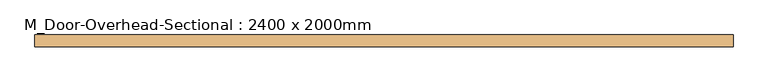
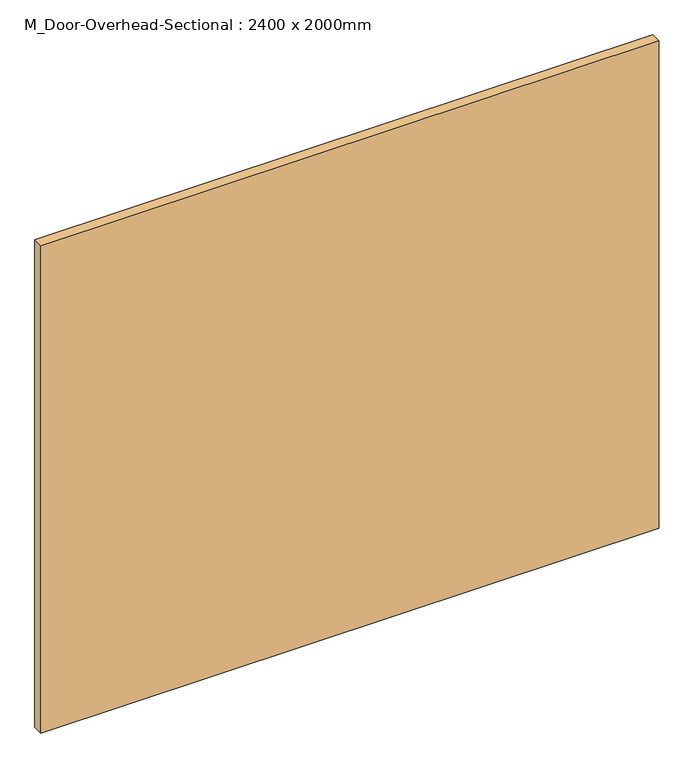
"""IFC4 building model written with IfcOpenShell, lengths in millimetres: door geometry, M_Door-Overhead-Sectional : 2400 x 2000mm."""

from ifc_helpers import new_model, si_unit, origin, origin_with_axes, place, context, project, spatial, polyline, outline, extrude, source, transform, mapped, element, save


def m_door_overhead_sectional_2400_x_2000mm_2e2bb5a0(model_context):
    return source(origin(), model_context, "Body", "SweptSolid", [
        extrude(outline(polyline([(1200.0, -214.5), (1200.0, -254.5), (-1200.0, -254.5), (-1200.0, -214.5), (1200.0, -214.5)])), origin_with_axes(), (0.0, 0.0, 1.0), 2000.0),
    ])


if __name__ == "__main__":
    model = new_model("IFC4")
    model_context = context("Model", 3, world=origin())
    ifc_project = project(units=[si_unit("LENGTHUNIT", "METRE", prefix="MILLI")], contexts=[model_context])
    site = spatial("IfcSite", under=ifc_project)
    building = spatial("IfcBuilding", under=site)
    placement = place(None, origin())
    m_door_overhead_sectional_2400_x_2000mm_shape = m_door_overhead_sectional_2400_x_2000mm_2e2bb5a0(model_context)
    element("IfcDoor", 1, ObjectType="M_Door-Overhead-Sectional : 2400 x 2000mm", at=placement, inside=building, context=model_context, shape_type="MappedRepresentation", body=[
        mapped(m_door_overhead_sectional_2400_x_2000mm_shape, transform((0.0, 0.0, 0.0), x_axis=(1.0, 0.0, 0.0), y_axis=(0.0, 1.0, 0.0), z_axis=(0.0, 0.0, 1.0))),
    ])
    save(model, "model.ifc")
